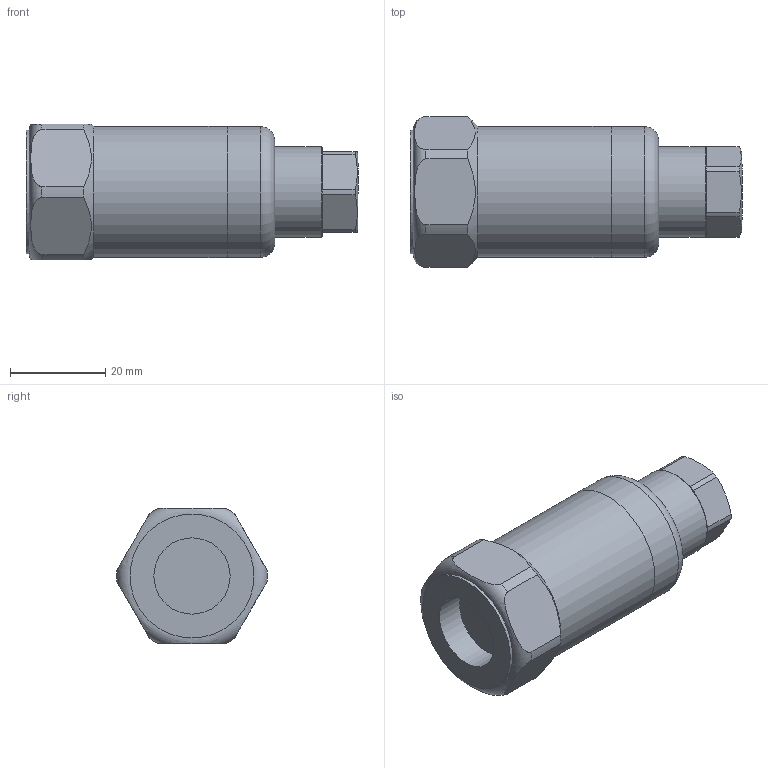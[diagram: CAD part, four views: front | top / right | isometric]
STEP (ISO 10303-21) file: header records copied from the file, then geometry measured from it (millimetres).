
FILE_DESCRIPTION(/* description */ (''),/* implementation_level */ '2;1');
FILE_NAME(/* name */ 'Z:\Engineering\Drawings\3D Library\Assemblies\Website\420 Velocity\HS-420XXX0105.stp',/* time_stamp */ '2023-05-03T13:43:47+01:00',/* author */ ('Ricardo.Peneda'),/* organization */ (''),/* preprocessor_version */ 'ST-DEVELOPER v18.1',/* originating_system */ 'Autodesk Inventor 2021',/* authorisation */ '');
FILE_SCHEMA (('AUTOMOTIVE_DESIGN { 1 0 10303 214 3 1 1 }'));
Length unit declared in the file: inch
Products named in the file (1): HS-420XXX0105_Shrinkwrap_1
Bounding box: 69.68 x 31.69 x 28.5 mm (x, y, z)
Volume: 16091.3 mm3; surface area: 13081.2 mm2
Topology: 3 solids, 3 shells, 65 faces, 176 edges, 127 vertices
Faces by surface type: cylinder 28, plane 28, cone 6, torus 3
Full cylindrical faces by diameter (mm): 9 x1, 11.647 x1, 12 x1, 13.882 x1, 14 x1, 15 x2, 16 x1, 18 x1, 19 x1, 20 x1, 25.3 x2, 26 x1, 27.5 x2
Entity records: 2389 total; most frequent: CARTESIAN_POINT 545, DIRECTION 392, ORIENTED_EDGE 352, EDGE_CURVE 176, AXIS2_PLACEMENT_3D 170, VERTEX_POINT 127, CIRCLE 104, EDGE_LOOP 79
